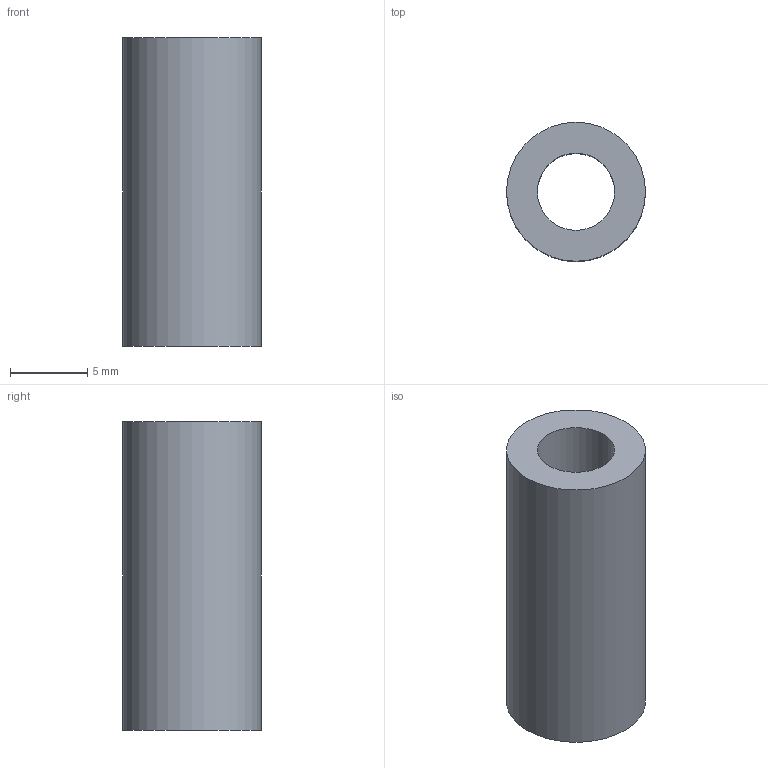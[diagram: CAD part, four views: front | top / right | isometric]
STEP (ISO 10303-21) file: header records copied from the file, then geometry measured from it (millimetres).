
FILE_DESCRIPTION(('Open CASCADE Model'),'2;1');
FILE_NAME('Open CASCADE Shape Model','2026-10-28T05:15:08',('Author'),( 'Open CASCADE'),'Open CASCADE STEP processor 7.8','Open CASCADE 7.8' ,'Unknown');
FILE_SCHEMA(('AUTOMOTIVE_DESIGN { 1 0 10303 214 1 1 1 1 }'));
Length unit declared in the file: millimetre
Products named in the file (1): Open CASCADE STEP translator 7.8 2
Bounding box: 9 x 9 x 20 mm (x, y, z)
Volume: 879.6 mm3; surface area: 967.6 mm2
Topology: 1 solids, 1 shells, 4 faces, 6 edges, 4 vertices
Faces by surface type: cylinder 2, plane 2
Full cylindrical faces by diameter (mm): 5 x1, 9 x1
Entity records: 186 total; most frequent: DIRECTION 32, CARTESIAN_POINT 27, ORIENTED_EDGE 12, PCURVE 12, DEFINITIONAL_REPRESENTATION 12, LINE 10, VECTOR 10, AXIS2_PLACEMENT_3D 9
